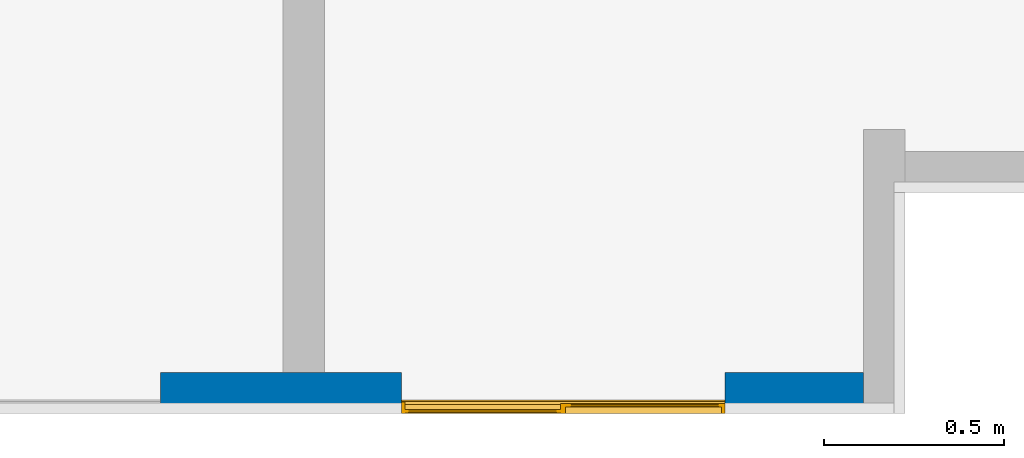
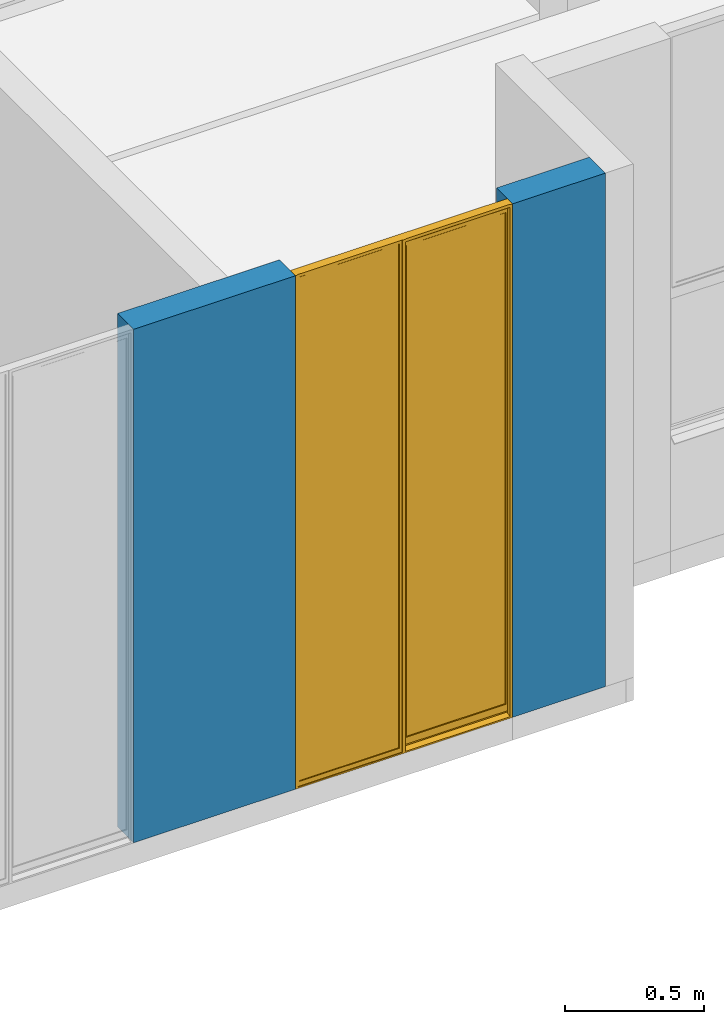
# One storey, part 4 of 48: 1 wall, 1 window, 2 openings.
"""IFC4 building model written with IfcOpenShell, lengths in metres."""

from ifc_helpers import new_model, entity, si_unit, converted_unit, derived_unit, direction, frame, origin, place, context, subcontext, project, spatial, indexed_curve, outline, extrude, polygons, source, transform, mapped, material, constituent, constituent_set, type_object, type_shapes, element, fill, save


model = new_model("IFC4")

# Units and contexts
model_context = context("Model", 3, precision=1e-05, world=origin(), true_north=direction((6.123031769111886e-17, 1.0)))
body_context = subcontext(model_context, "Body", "Model", "MODEL_VIEW")
ifc_project = project(units=[si_unit("LENGTHUNIT", "METRE"), si_unit("AREAUNIT", "SQUARE_METRE"), si_unit("VOLUMEUNIT", "CUBIC_METRE"), converted_unit("PLANEANGLEUNIT", "DEGREE", entity("IfcRatioMeasure", 0.017453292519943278), si_unit("PLANEANGLEUNIT", "RADIAN"), dimensions=[0, 0, 0, 0, 0, 0, 0]), si_unit("MASSUNIT", "GRAM", prefix="KILO"), derived_unit("MASSDENSITYUNIT", [(si_unit("MASSUNIT", "GRAM", prefix="KILO"), 1), (si_unit("LENGTHUNIT", "METRE"), -3)]), derived_unit("IONCONCENTRATIONUNIT", [(si_unit("MASSUNIT", "GRAM", prefix="KILO"), 1), (si_unit("LENGTHUNIT", "METRE"), -3)]), derived_unit("MOMENTOFINERTIAUNIT", [(si_unit("LENGTHUNIT", "METRE"), 4)]), si_unit("TIMEUNIT", "SECOND"), si_unit("FREQUENCYUNIT", "HERTZ"), si_unit("THERMODYNAMICTEMPERATUREUNIT", "DEGREE_CELSIUS"), derived_unit("THERMALTRANSMITTANCEUNIT", [(si_unit("MASSUNIT", "GRAM", prefix="KILO"), 1), (si_unit("THERMODYNAMICTEMPERATUREUNIT", "KELVIN"), -1), (si_unit("TIMEUNIT", "SECOND"), -3)]), derived_unit("THERMALCONDUCTANCEUNIT", [(si_unit("MASSUNIT", "GRAM", prefix="KILO"), 1), (si_unit("THERMODYNAMICTEMPERATUREUNIT", "KELVIN"), -1), (si_unit("TIMEUNIT", "SECOND"), -3), (si_unit("LENGTHUNIT", "METRE"), 1)]), derived_unit("VOLUMETRICFLOWRATEUNIT", [(si_unit("LENGTHUNIT", "METRE"), 3), (si_unit("TIMEUNIT", "SECOND"), -1)]), derived_unit("MASSFLOWRATEUNIT", [(si_unit("MASSUNIT", "GRAM", prefix="KILO"), 1), (si_unit("TIMEUNIT", "SECOND"), -1)]), derived_unit("ROTATIONALFREQUENCYUNIT", [(si_unit("TIMEUNIT", "SECOND"), -1)]), si_unit("ELECTRICCURRENTUNIT", "AMPERE"), si_unit("ELECTRICVOLTAGEUNIT", "VOLT"), si_unit("POWERUNIT", "WATT"), si_unit("FORCEUNIT", "NEWTON", prefix="KILO"), si_unit("ILLUMINANCEUNIT", "LUX"), si_unit("LUMINOUSFLUXUNIT", "LUMEN"), si_unit("LUMINOUSINTENSITYUNIT", "CANDELA"), derived_unit("USERDEFINED", [(si_unit("MASSUNIT", "GRAM", prefix="KILO"), -1), (si_unit("LENGTHUNIT", "METRE"), -2), (si_unit("TIMEUNIT", "SECOND"), 3), (si_unit("LUMINOUSFLUXUNIT", "LUMEN"), 1)]), derived_unit("USERDEFINED", [(si_unit("MASSUNIT", "GRAM", prefix="KILO"), 1), (si_unit("TIMEUNIT", "SECOND"), -3), (si_unit("LENGTHUNIT", "METRE"), 3), (si_unit("ELECTRICCURRENTUNIT", "AMPERE"), -2)]), derived_unit("SOUNDPOWERUNIT", [(si_unit("MASSUNIT", "GRAM", prefix="KILO"), 1), (si_unit("TIMEUNIT", "SECOND"), -3), (si_unit("LENGTHUNIT", "METRE"), 2)]), derived_unit("SOUNDPRESSUREUNIT", [(si_unit("MASSUNIT", "GRAM", prefix="KILO"), 1), (si_unit("LENGTHUNIT", "METRE"), -1), (si_unit("TIMEUNIT", "SECOND"), -2)]), derived_unit("LINEARVELOCITYUNIT", [(si_unit("LENGTHUNIT", "METRE"), 1), (si_unit("TIMEUNIT", "SECOND"), -1)]), si_unit("PRESSUREUNIT", "PASCAL"), derived_unit("USERDEFINED", [(si_unit("MASSUNIT", "GRAM", prefix="KILO"), 1), (si_unit("LENGTHUNIT", "METRE"), -2), (si_unit("TIMEUNIT", "SECOND"), -2)]), derived_unit("LINEARFORCEUNIT", [(si_unit("MASSUNIT", "GRAM", prefix="KILO"), 1), (si_unit("TIMEUNIT", "SECOND"), -2)]), derived_unit("PLANARFORCEUNIT", [(si_unit("MASSUNIT", "GRAM", prefix="KILO"), 1), (si_unit("LENGTHUNIT", "METRE"), -1), (si_unit("TIMEUNIT", "SECOND"), -2)]), derived_unit("SPECIFICHEATCAPACITYUNIT", [(si_unit("THERMODYNAMICTEMPERATUREUNIT", "KELVIN"), -1), (si_unit("LENGTHUNIT", "METRE"), 2), (si_unit("TIMEUNIT", "SECOND"), -2)]), derived_unit("HEATINGVALUEUNIT", [(si_unit("LENGTHUNIT", "METRE"), 2), (si_unit("TIMEUNIT", "SECOND"), -2)]), derived_unit("VAPORPERMEABILITYUNIT", [(si_unit("LENGTHUNIT", "METRE"), -1), (si_unit("TIMEUNIT", "SECOND"), 1)]), derived_unit("DYNAMICVISCOSITYUNIT", [(si_unit("MASSUNIT", "GRAM", prefix="KILO"), 1), (si_unit("TIMEUNIT", "SECOND"), -1), (si_unit("LENGTHUNIT", "METRE"), -1)]), derived_unit("THERMALEXPANSIONCOEFFICIENTUNIT", [(si_unit("THERMODYNAMICTEMPERATUREUNIT", "KELVIN"), -1)]), derived_unit("MODULUSOFELASTICITYUNIT", [(si_unit("MASSUNIT", "GRAM", prefix="KILO"), 1), (si_unit("LENGTHUNIT", "METRE"), -1), (si_unit("TIMEUNIT", "SECOND"), -2)]), derived_unit("ISOTHERMALMOISTURECAPACITYUNIT", [(si_unit("LENGTHUNIT", "METRE"), 3), (si_unit("MASSUNIT", "GRAM", prefix="KILO"), -1)]), derived_unit("MOISTUREDIFFUSIVITYUNIT", [(si_unit("TIMEUNIT", "SECOND"), -1), (si_unit("LENGTHUNIT", "METRE"), 2)])], contexts=[model_context])

# Site, building, storey
site_placement = place(None, origin())
site = spatial("IfcSite", under=ifc_project, at=site_placement, Name="Default", CompositionType="ELEMENT")
building_placement = place(site_placement, origin())
building = spatial("IfcBuilding", under=site, at=building_placement, CompositionType="ELEMENT")
storey_placement = place(building_placement, frame((0.0, 0.0, 7.050000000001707)))
storey = spatial("IfcBuildingStorey", under=building, at=storey_placement, Name="Nivel 4", CompositionType="ELEMENT", Elevation=7.050000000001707)

# Wall, openings, window
ifc_material_1 = material(Name="Ladrillo claro (Aire)", Category="Materials")
wall_type = type_object("IfcWallType", Name="Basic Wall:B2010 - 0.115m - Muro exterior en mampostería - Ladrillo", PredefinedType="STANDARD")
wall_placement = place(storey_placement, frame((6.067499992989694, -12.812500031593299, 0.0), z_axis=(0.0, 0.0, 1.0), x_axis=(-1.0, 0.0, 0.0)))
wall = element("IfcWall", 1, at=wall_placement, inside=storey, type_object=wall_type, material=ifc_material_1, Name="Basic Wall:B2010 - 0.115m - Muro exterior en mampostería - Ladrillo", ObjectType="Basic Wall:B2010 - 0.115m - Muro exterior en mampostería - Ladrillo", PredefinedType="NOTDEFINED", context=body_context, shape_type="Tessellation", body=[
    polygons([(1.732929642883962e-15, -0.057499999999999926, 2.2500000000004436), (1.732929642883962e-15, -0.057499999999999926, -1.0828671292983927e-15), (0.3850000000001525, -0.057499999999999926, -1.0828671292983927e-15), (0.3850000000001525, -0.057499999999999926, 2.2500000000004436), (1.0944189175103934e-15, 0.057499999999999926, -1.0828671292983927e-15), (0.3850000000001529, 0.057499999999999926, -1.0828671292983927e-15), (1.0944189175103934e-15, 0.057499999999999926, 2.2500000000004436), (0.3850000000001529, 0.057499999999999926, 2.2500000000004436)], [[[1, 2, 3, 4]], [[2, 5, 6, 3]], [[2, 1, 7, 5]], [[4, 3, 6, 8]], [[7, 1, 4, 8]], [[5, 7, 8, 6]]], closed=True),
    polygons([(1.2850000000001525, 0.057499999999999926, -1.0828671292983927e-15), (1.2850000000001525, 0.057499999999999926, 2.2500000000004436), (1.9557999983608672, 0.057499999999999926, 2.2500000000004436), (1.9557999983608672, 0.057499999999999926, -1.0828671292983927e-15), (1.2850000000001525, -0.057499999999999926, 2.2500000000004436), (1.4999999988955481, -0.057499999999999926, 2.2500000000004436), (1.6149999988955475, -0.057499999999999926, 2.2500000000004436), (1.9557999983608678, -0.057499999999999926, 2.2500000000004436), (1.9557999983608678, -0.057499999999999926, -1.0828671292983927e-15), (1.2850000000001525, -0.057499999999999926, -1.0828671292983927e-15), (1.6149999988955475, -0.057499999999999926, 0.0), (1.4999999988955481, -0.057499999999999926, 0.0)], [[[1, 2, 3, 4]], [[2, 5, 6, 7, 8, 3]], [[8, 9, 4, 3]], [[10, 5, 2, 1]], [[10, 1, 4, 9, 11, 12]], [[5, 10, 12, 11, 9, 8, 7, 6]]], closed=True),
])
opening_1_placement = place(wall_placement, frame((1.2850000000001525, 0.05749999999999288, 0.0)))
opening_1 = element("IfcOpeningElement", 2, at=opening_1_placement, cuts=wall, Name="B2020 - Ventana corrediza 2C - Aluminio + Vidrio:B2020 - 0.90m x 2.25m - Ventana corrediza 2C - Aluminio + Vidrio:1", PredefinedType="OPENING", context=body_context, shape_type="SweptSolid", body=[
    extrude(outline(indexed_curve([(0.0, 1.353583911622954e-16), (2.2499999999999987, 1.353583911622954e-16), (2.249999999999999, 0.9), (0.0, 0.9), (0.0, 1.353583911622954e-16)], self_intersect=False)), frame((0.0, 0.0, 0.0), z_axis=(0.0, -1.0, 0.0), x_axis=(0.0, 0.0, 1.0)), (0.0, 0.0, 1.0), 0.115),
])
opening_2_placement = place(wall_placement, frame((2.975799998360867, 0.05749999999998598, 0.0)))
element("IfcOpeningElement", 3, at=opening_2_placement, cuts=wall, Name="B2020 - Ventana corrediza 2C - Aluminio + Vidrio:B2020 - 1.02m x 2.25m - Ventana corrediza 2C - Aluminio + Vidrio:1", PredefinedType="OPENING", context=body_context, shape_type="SweptSolid", body=[
    extrude(outline(indexed_curve([(0.0, -7.394753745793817e-30), (2.2499999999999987, -7.394753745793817e-30), (2.249999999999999, 1.0199999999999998), (0.0, 1.0199999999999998), (0.0, -7.394753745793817e-30)], self_intersect=False)), frame((0.0, 0.0, 0.0), z_axis=(0.0, -1.0, 0.0), x_axis=(0.0, 0.0, 1.0)), (0.0, 0.0, 1.0), 0.115),
])
ifc_material_2 = material(Name="Vidrio", Category="Materials")
ifc_constituent_1 = constituent(ifc_material_2, Name="Vidrio", Category="Materials")
ifc_material_3 = material(Name="<Unnamed>")
ifc_constituent_2 = constituent(ifc_material_3, Name="<Unnamed>")
ifc_constituent_set_1 = constituent_set(constituents=[ifc_constituent_1, ifc_constituent_2])
ifc_constituent_3 = constituent(ifc_material_2, Name="Vidrio", Category="Materials")
ifc_constituent_4 = constituent(ifc_material_3, Name="<Unnamed>")
ifc_constituent_set_2 = constituent_set(constituents=[ifc_constituent_3, ifc_constituent_4])
window_type = type_object("IfcWindowType", Name="B2020 - Ventana corrediza 2C - Aluminio + Vidrio:B2020 - 0.90m x 2.25m - Ventana corrediza 2C - Aluminio + Vidrio", PartitioningType="NOTDEFINED", PredefinedType="WINDOW", material=ifc_constituent_set_2)
shared_shape = source(origin(), body_context, "Body", "Tessellation", [
    polygons([(0.4701871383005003, 0.11311505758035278, 0.028641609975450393), (0.8800323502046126, 0.11311505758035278, 0.028641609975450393), (0.8800323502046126, 0.10801372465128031, 0.028641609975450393), (0.4701871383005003, 0.10801372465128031, 0.028641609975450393), (0.4701871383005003, 0.11311505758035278, 2.2347073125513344), (0.4701871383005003, 0.10801372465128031, 2.2347073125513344), (0.8800323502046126, 0.10801372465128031, 2.2347073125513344), (0.8800323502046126, 0.11311505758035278, 2.2347073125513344)], [[[1, 2, 3, 4]], [[5, 1, 4, 6]], [[6, 4, 3, 7]], [[7, 3, 2, 8]], [[8, 2, 1, 5]], [[5, 6, 7, 8]]], closed=True),
    polygons([(0.01884633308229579, 0.0962952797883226, 0.054189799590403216), (0.4282710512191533, 0.0962952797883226, 0.054189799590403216), (0.4282710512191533, 0.09199928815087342, 0.054189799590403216), (0.01884633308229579, 0.09199928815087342, 0.054189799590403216), (0.01884633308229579, 0.0962952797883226, 2.2043993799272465), (0.01884633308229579, 0.09199928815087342, 2.2043993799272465), (0.4282710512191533, 0.09199928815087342, 2.2043993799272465), (0.4282710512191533, 0.0962952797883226, 2.2043993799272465)], [[[1, 2, 3, 4]], [[5, 1, 4, 6]], [[6, 4, 3, 7]], [[7, 3, 2, 8]], [[8, 2, 1, 5]], [[5, 6, 7, 8]]], closed=True),
    polygons([(1.610764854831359e-14, 0.08248628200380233, 0.020380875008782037), (1.610764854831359e-14, 0.07981389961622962, 0.020380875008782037), (1.610764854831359e-14, 0.07981389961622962, 0.025674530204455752), (1.610764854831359e-14, 0.08106389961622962, 0.025674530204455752), (1.610764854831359e-14, 0.08106389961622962, 0.02163087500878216), (1.610764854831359e-14, 0.08373628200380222, 0.02163087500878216), (1.610764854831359e-14, 0.08373628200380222, 0.017447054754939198), (1.610764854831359e-14, 0.08932238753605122, 0.017447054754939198), (1.610764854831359e-14, 0.08932238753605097, 2.24863686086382), (1.5972290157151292e-14, 0.0810593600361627, 2.24863686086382), (1.5972290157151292e-14, 0.0810593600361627, 2.2365872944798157), (1.5972290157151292e-14, 0.07969622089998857, 2.2365872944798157), (1.5972290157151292e-14, 0.07969622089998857, 2.2499999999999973), (1.610764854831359e-14, 0.11748628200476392, 2.2499999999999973), (1.5972290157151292e-14, 0.1174862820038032, -2.5718094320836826e-15), (1.610764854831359e-14, 0.08248628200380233, -2.5718094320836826e-15), (0.900000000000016, 0.08248628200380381, 0.020380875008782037), (0.900000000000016, 0.08248628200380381, -2.5718094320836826e-15), (0.900000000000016, 0.11748628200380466, -2.5718094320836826e-15), (0.45664549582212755, 0.11748628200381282, 2.2499999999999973), (0.45664549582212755, 0.11748628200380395, 0.006176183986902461), (0.8900000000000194, 0.11748628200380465, 0.006176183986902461), (0.8900000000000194, 0.11748628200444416, 2.2499999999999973), (0.900000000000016, 0.11748628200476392, 2.2499999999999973), (0.009897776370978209, 0.11748628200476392, 2.2499999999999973), (0.009897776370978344, 0.1174862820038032, 0.006176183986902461), (0.4433545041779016, 0.11748628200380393, 0.006176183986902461), (0.4433545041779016, 0.11748628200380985, 2.2499999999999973), (0.016298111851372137, 0.0893223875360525, 2.2069861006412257), (0.4433545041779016, 0.0893223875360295, 2.2069861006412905), (0.4433545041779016, 0.08932238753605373, 2.2043993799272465), (0.430819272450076, 0.08932238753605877, 2.2043993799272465), (0.4308192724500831, 0.08932238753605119, 0.0519155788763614), (0.01629811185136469, 0.08932238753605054, 0.0519155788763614), (0.016298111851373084, 0.08932238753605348, 2.237270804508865), (0.01629811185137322, 0.08932238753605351, 2.24863686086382), (0.0037628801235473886, 0.08932238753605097, 0.017447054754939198), (0.0037628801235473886, 0.0893223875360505, 0.02163087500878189), (0.4433545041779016, 0.0893223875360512, 0.021630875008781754), (0.4433545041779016, 0.08932238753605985, 0.017447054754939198), (0.4580471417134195, 0.08932238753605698, 0.017447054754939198), (0.4580471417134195, 0.0893223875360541, 2.24863686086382), (0.4433545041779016, 0.08932238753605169, 2.24863686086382), (0.4433545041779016, 0.08932238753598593, 2.237270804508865), (0.900000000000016, 0.08373628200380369, 0.017447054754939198), (0.900000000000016, 0.08548628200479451, 0.017447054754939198), (0.8900000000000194, 0.08548628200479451, 0.017447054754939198), (0.8900000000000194, 0.09284764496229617, 0.017447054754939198), (0.4580471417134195, 0.09284764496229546, 0.017447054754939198), (0.4433545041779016, 0.09284764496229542, 0.017447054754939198), (0.0037628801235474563, 0.09284764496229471, 0.017447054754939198), (0.900000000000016, 0.08373628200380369, 0.02163087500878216), (0.900000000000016, 0.08106389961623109, 0.02163087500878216), (0.900000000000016, 0.08106389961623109, 0.025674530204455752), (0.900000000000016, 0.07981389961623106, 0.025674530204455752), (0.900000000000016, 0.07981389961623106, 0.020380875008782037), (0.01884290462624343, 0.09629339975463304, 0.054191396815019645), (0.4282772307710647, 0.09629080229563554, 0.054191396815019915), (0.4308192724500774, 0.09897218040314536, 0.051915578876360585), (0.016298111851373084, 0.09897218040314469, 0.051915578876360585), (0.01629811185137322, 0.09897218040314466, 2.237270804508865), (0.01629811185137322, 0.09897218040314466, 2.24863686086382), (0.018846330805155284, 0.0962732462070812, 2.24863686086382), (0.018846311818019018, 0.0962733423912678, 2.237270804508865), (0.430819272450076, 0.09897218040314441, 2.2043993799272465), (0.4433545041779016, 0.09897218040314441, 2.2043993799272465), (0.4433545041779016, 0.09897218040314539, 0.02163087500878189), (0.009897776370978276, 0.09897218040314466, 0.021630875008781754), (0.009897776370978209, 0.09897218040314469, 2.24863686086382), (0.4433545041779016, 0.09897218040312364, 2.237270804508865), (0.4433545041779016, 0.09897218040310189, 2.2069861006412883), (0.01629811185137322, 0.09897218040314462, 2.2069861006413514), (0.4282710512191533, 0.09628602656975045, 2.2043993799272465), (0.01884015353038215, 0.09200376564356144, 0.05419139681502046), (0.42827447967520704, 0.09200116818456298, 0.05419139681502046), (0.018846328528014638, 0.09202132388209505, 2.24863686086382), (0.01884629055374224, 0.09202124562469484, 2.237270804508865), (0.4282710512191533, 0.09200843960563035, 2.204399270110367), (0.4580471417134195, 0.09284764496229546, 0.011279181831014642), (0.4580471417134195, 0.09612320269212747, 0.010600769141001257), (0.4580471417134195, 0.09612320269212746, 0.014402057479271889), (0.4580471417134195, 0.10582811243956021, 0.014402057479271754), (0.4580471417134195, 0.1058281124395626, 2.24863686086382), (0.4433545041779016, 0.09199945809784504, 2.204399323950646), (0.0037628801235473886, 0.09897218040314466, 0.02163087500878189), (0.0037628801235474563, 0.09284764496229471, 0.011279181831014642), (0.0037628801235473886, 0.09897218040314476, 0.010010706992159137), (0.009897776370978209, 0.09897218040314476, 0.010010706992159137), (0.009897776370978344, 0.1153006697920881, 2.2499999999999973), (0.009897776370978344, 0.11530066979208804, 2.2369062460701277), (0.009897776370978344, 0.11310173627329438, 2.234707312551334), (0.009897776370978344, 0.1080270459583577, 2.234707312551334), (0.009897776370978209, 0.10582811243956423, 2.2369062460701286), (0.009897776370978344, 0.10582811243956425, 2.24863686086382), (0.900000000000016, 0.07969622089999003, 2.2499999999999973), (0.900000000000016, 0.07969622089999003, 2.2365872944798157), (0.900000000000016, 0.08105936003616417, 2.2365872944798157), (0.900000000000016, 0.08105936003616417, 2.24863686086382), (0.900000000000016, 0.08548628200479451, 2.24863686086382), (0.8900000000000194, 0.08548628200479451, 2.24863686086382), (0.8900000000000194, 0.09284764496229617, 0.011279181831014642), (0.8900000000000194, 0.10582811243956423, 2.24863686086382), (0.8900000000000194, 0.10582811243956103, 0.014402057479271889), (0.8900000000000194, 0.09612320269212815, 0.014402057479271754), (0.8900000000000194, 0.09612320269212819, 0.010600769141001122), (0.45664549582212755, 0.1153006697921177, 0.006628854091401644), (0.45664549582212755, 0.11530066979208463, 2.2499999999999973), (0.8900000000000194, 0.11530066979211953, 0.0066288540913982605), (0.8900000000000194, 0.11530066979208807, 2.2499999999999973), (0.4433545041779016, 0.11530066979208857, 2.2499999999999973), (0.4433545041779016, 0.1153006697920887, 2.2369062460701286), (0.4676389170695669, 0.11530066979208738, 0.026824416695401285), (0.46763891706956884, 0.11530066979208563, 2.236906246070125), (0.4701871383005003, 0.1131150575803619, 2.234713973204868), (0.4701871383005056, 0.11311505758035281, 0.028641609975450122), (0.8800323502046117, 0.11311505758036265, 0.028641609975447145), (0.8800323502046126, 0.11311505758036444, 2.2347139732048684), (0.8825805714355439, 0.11530066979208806, 2.236906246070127), (0.8825805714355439, 0.1153006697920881, 0.026824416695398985), (0.8800323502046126, 0.10801372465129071, 0.02864160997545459), (0.47018713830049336, 0.10801372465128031, 0.028641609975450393), (0.46763891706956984, 0.10582811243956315, 0.02682441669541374), (0.8825805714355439, 0.10582811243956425, 0.026824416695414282), (0.46763891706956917, 0.10582811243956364, 2.2369062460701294), (0.8825805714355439, 0.10582811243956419, 2.2369062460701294), (0.8800311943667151, 0.108016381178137, 2.2347113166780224), (0.47018829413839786, 0.10801638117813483, 2.234711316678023), (0.4433545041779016, 0.09629516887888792, 2.204399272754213), (0.018846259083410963, 0.09627365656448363, 2.204388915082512), (0.018844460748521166, 0.09201660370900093, 2.2043931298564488), (0.4433545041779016, 0.10582811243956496, 2.24863686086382), (0.4433545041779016, 0.10802704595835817, 2.2347073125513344), (0.4433545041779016, 0.10582811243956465, 2.2369062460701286), (0.4433545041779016, 0.11310173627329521, 2.2347073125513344), (0.4433545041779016, 0.09284764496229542, 0.011279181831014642)], [[[1, 2, 3, 4, 5, 6, 7, 8, 9, 10, 11, 12, 13, 14, 15, 16]], [[17, 1, 16, 18]], [[16, 15, 19, 18]], [[20, 21, 22, 23, 24, 19, 15, 14, 25, 26, 27, 28]], [[35, 36, 9, 8, 37, 38, 39, 40, 41, 42, 43, 44], [29, 30, 31, 32, 33, 34]], [[45, 46, 47, 48, 49, 41, 40, 50, 51, 37, 8, 7]], [[45, 7, 6, 52]], [[52, 6, 5, 53]], [[53, 5, 4, 54]], [[54, 4, 3, 55]], [[55, 3, 2, 56]], [[56, 2, 1, 17]], [[57, 58, 59, 60]], [[61, 62, 63, 64]], [[60, 59, 65, 66, 67, 68, 69, 62, 61, 70, 71, 72]], [[65, 59, 58, 73]], [[74, 75, 58, 57]], [[64, 63, 76, 77]], [[58, 75, 78, 73]], [[34, 33, 75, 74]], [[77, 76, 36, 35]], [[78, 75, 33, 32]], [[49, 79, 80, 81, 82, 83, 42, 41]], [[84, 31, 30]], [[39, 38, 85, 68, 67]], [[85, 38, 37, 51, 86, 87]], [[68, 85, 87, 88]], [[25, 89, 90, 91, 92, 93, 94, 69, 68, 88, 26]], [[17, 18, 19, 24, 95, 96, 97, 98, 99, 46, 45, 52, 53, 54, 55, 56]], [[46, 99, 100, 47]], [[49, 48, 101, 79]], [[47, 100, 102, 103, 104, 105, 101, 48]], [[79, 101, 105, 80]], [[106, 21, 20, 107]], [[23, 22, 108, 109]], [[110, 111, 90, 89]], [[80, 105, 104, 81]], [[112, 113, 114, 115]], [[116, 117, 118, 119]], [[119, 112, 115, 116]], [[120, 121, 122, 123]], [[103, 102, 83, 82], [122, 124, 125, 123]], [[123, 125, 126, 120]], [[121, 127, 124, 122]], [[81, 104, 103, 82]], [[120, 126, 117, 116]], [[116, 115, 121, 120]], [[115, 114, 127, 121]], [[13, 95, 24, 23, 109, 107, 20, 28, 110, 89, 25, 14]], [[72, 71, 128, 73, 129]], [[129, 73, 78, 130]], [[130, 78, 84, 30, 29]], [[77, 35, 44, 70, 61, 64]], [[31, 84, 78, 32]], [[97, 11, 10, 98]], [[96, 12, 11, 97]], [[95, 13, 12, 96]], [[118, 117, 114, 113]], [[127, 114, 117, 126]], [[124, 127, 126, 125]], [[10, 9, 36, 76, 63, 62, 69, 94, 131, 43, 42, 83, 102, 100, 99, 98]], [[132, 133, 93, 92]], [[134, 132, 92, 91]], [[111, 134, 91, 90]], [[73, 128, 66, 65]], [[133, 131, 94, 93]], [[109, 108, 106, 107], [112, 119, 118, 113]], [[106, 108, 22, 21]], [[27, 26, 88, 87, 86, 135]], [[135, 86, 51, 50]], [[27, 135, 50, 40, 39, 67, 66, 128, 71, 70, 44, 43, 131, 133, 132, 134, 111, 110, 28]], [[74, 130, 29, 34]], [[57, 129, 130, 74]], [[60, 72, 129, 57]]], closed=True),
])
type_shapes(window_type, [shared_shape])
window_placement = place(opening_1_placement, frame((-0.9000000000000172, -0.11748628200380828, 0.0)))
window = element("IfcWindow", 4, at=window_placement, inside=storey, type_object=window_type, material=ifc_constituent_set_1, Name="B2020 - Ventana corrediza 2C - Aluminio + Vidrio:B2020 - 0.90m x 2.25m - Ventana corrediza 2C - Aluminio + Vidrio", ObjectType="B2020 - Ventana corrediza 2C - Aluminio + Vidrio:B2020 - 0.90m x 2.25m - Ventana corrediza 2C - Aluminio + Vidrio", OverallHeight=2.2499999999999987, OverallWidth=0.9000000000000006, PartitioningType="NOTDEFINED", PredefinedType="WINDOW", context=body_context, shape_type="MappedRepresentation", body=[
    mapped(shared_shape, transform((0.0, 0.0, 0.0), scale=1.0)),
])
fill(opening_1, window)

save(model, "model.ifc")
